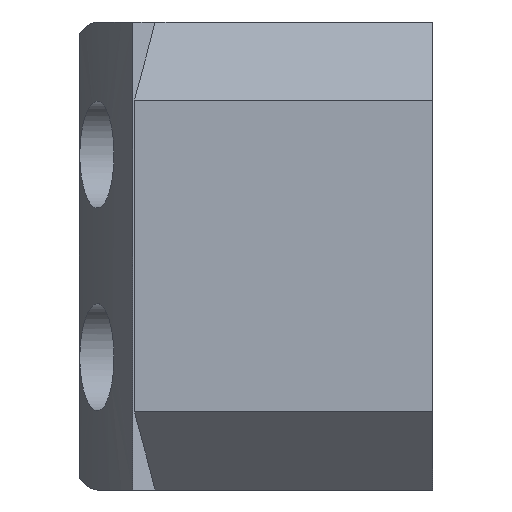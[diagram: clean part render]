
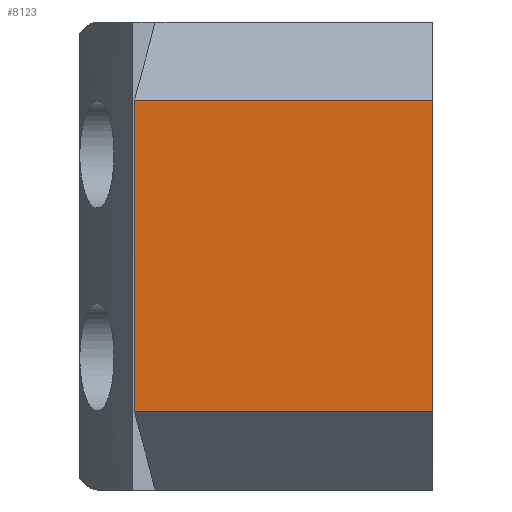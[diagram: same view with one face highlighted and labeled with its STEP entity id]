
A CAD part, front view. The second image highlights one B-rep face of the part: STEP entity #8123.
In plain terms, the highlighted planar face has unit normal (0, -1, 0).
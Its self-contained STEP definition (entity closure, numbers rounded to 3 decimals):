
#314=PLANE('',#8725);
#1344=LINE('',#13368,#2265);
#1361=LINE('',#13434,#2282);
#1362=LINE('',#13437,#2283);
#1363=LINE('',#13438,#2284);
#2265=VECTOR('',#10724,10.);
#2282=VECTOR('',#10777,10.);
#2283=VECTOR('',#10780,10.);
#2284=VECTOR('',#10781,10.);
#2657=FACE_OUTER_BOUND('',#3093,.T.);
#3093=EDGE_LOOP('',(#7334,#7335,#7336,#7337));
#4139=VERTEX_POINT('',#13365);
#4140=VERTEX_POINT('',#13367);
#4165=VERTEX_POINT('',#13432);
#4166=VERTEX_POINT('',#13436);
#5290=EDGE_CURVE('',#4140,#4139,#1344,.T.);
#5322=EDGE_CURVE('',#4140,#4165,#1361,.T.);
#5323=EDGE_CURVE('',#4166,#4139,#1362,.T.);
#5324=EDGE_CURVE('',#4165,#4166,#1363,.T.);
#7334=ORIENTED_EDGE('',*,*,#5322,.F.);
#7335=ORIENTED_EDGE('',*,*,#5290,.T.);
#7336=ORIENTED_EDGE('',*,*,#5323,.F.);
#7337=ORIENTED_EDGE('',*,*,#5324,.F.);
#8123=ADVANCED_FACE('',(#2657),#314,.T.);
#8725=AXIS2_PLACEMENT_3D('',#13435,#10778,#10779);
#10724=DIRECTION('',(0.,0.,1.));
#10777=DIRECTION('',(-1.,0.,0.));
#10778=DIRECTION('center_axis',(0.,-1.,0.));
#10779=DIRECTION('ref_axis',(1.,0.,0.));
#10780=DIRECTION('',(1.,0.,0.));
#10781=DIRECTION('',(0.,0.,1.));
#13365=CARTESIAN_POINT('',(-259.486,93.876,-12.567));
#13367=CARTESIAN_POINT('',(-259.486,93.876,-32.567));
#13368=CARTESIAN_POINT('',(-259.486,93.876,-22.567));
#13432=CARTESIAN_POINT('',(-278.594,93.876,-32.567));
#13434=CARTESIAN_POINT('',(-274.698,93.876,-32.567));
#13435=CARTESIAN_POINT('Origin',(-278.594,93.876,-22.567));
#13436=CARTESIAN_POINT('',(-278.594,93.876,-12.567));
#13437=CARTESIAN_POINT('',(-274.698,93.876,-12.567));
#13438=CARTESIAN_POINT('',(-278.594,93.876,-22.567));
